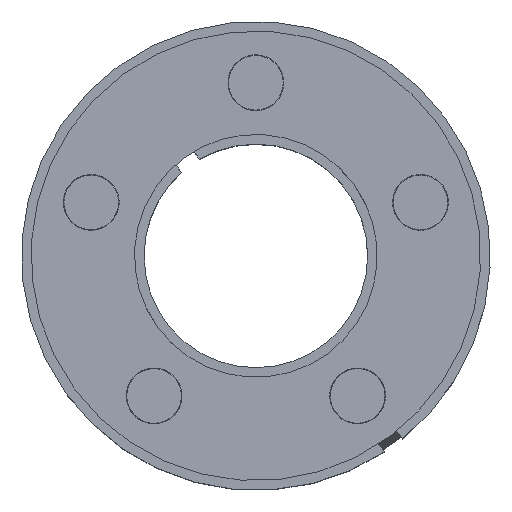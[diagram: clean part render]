
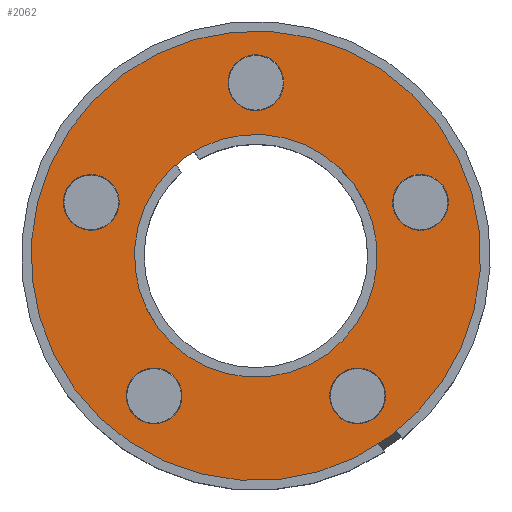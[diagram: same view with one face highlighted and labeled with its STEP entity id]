
A CAD part, top view. The second image highlights one B-rep face of the part: STEP entity #2062.
In plain terms, the highlighted planar face has unit normal (0, 0, 1).
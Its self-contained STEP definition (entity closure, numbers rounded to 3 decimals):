
#66 = ORIENTED_EDGE ( 'NONE', *, *, #2810, .T. ) ;
#68 = DIRECTION ( 'NONE',  ( 0.809, 0.588, 0. ) ) ;
#310 = EDGE_LOOP ( 'NONE', ( #2455, #4362 ) ) ;
#315 = VERTEX_POINT ( 'NONE', #534 ) ;
#339 = CARTESIAN_POINT ( 'NONE',  ( 0., 0., 18.013 ) ) ;
#383 = CARTESIAN_POINT ( 'NONE',  ( -7.088, -11.07, 18.013 ) ) ;
#481 = AXIS2_PLACEMENT_3D ( 'NONE', #2497, #7036, #3156 ) ;
#534 = CARTESIAN_POINT ( 'NONE',  ( -16.764, 3.32, 18.013 ) ) ;
#582 = VERTEX_POINT ( 'NONE', #3438 ) ;
#611 = VERTEX_POINT ( 'NONE', #4735 ) ;
#663 = DIRECTION ( 'NONE',  ( 0., 0., -1. ) ) ;
#723 = DIRECTION ( 'NONE',  ( 0., 0., -1. ) ) ;
#747 = CARTESIAN_POINT ( 'NONE',  ( 2.023, 16.969, 18.013 ) ) ;
#792 = VERTEX_POINT ( 'NONE', #4414 ) ;
#809 = CARTESIAN_POINT ( 'NONE',  ( -8.792, -6.388, 18.013 ) ) ;
#970 = DIRECTION ( 'NONE',  ( 0.809, 0.588, 0. ) ) ;
#989 = VERTEX_POINT ( 'NONE', #747 ) ;
#1007 = VERTEX_POINT ( 'NONE', #809 ) ;
#1264 = FACE_BOUND ( 'NONE', #7603, .T. ) ;
#1299 = AXIS2_PLACEMENT_3D ( 'NONE', #1787, #6332, #2450 ) ;
#1306 = VERTEX_POINT ( 'NONE', #383 ) ;
#1332 = CARTESIAN_POINT ( 'NONE',  ( 12.719, 3.32, 18.013 ) ) ;
#1370 = EDGE_CURVE ( 'NONE', #3776, #315, #2543, .T. ) ;
#1390 = ORIENTED_EDGE ( 'NONE', *, *, #5117, .T. ) ;
#1430 = CARTESIAN_POINT ( 'NONE',  ( 0., 15.5, 18.013 ) ) ;
#1451 = CIRCLE ( 'NONE', #3202, 10.868 ) ;
#1487 = FACE_BOUND ( 'NONE', #310, .T. ) ;
#1491 = CARTESIAN_POINT ( 'NONE',  ( 7.088, -14.009, 18.013 ) ) ;
#1729 = CIRCLE ( 'NONE', #7934, 2.5 ) ;
#1787 = CARTESIAN_POINT ( 'NONE',  ( 14.741, 4.79, 18.013 ) ) ;
#1840 = ORIENTED_EDGE ( 'NONE', *, *, #6140, .T. ) ;
#1860 = AXIS2_PLACEMENT_3D ( 'NONE', #5816, #1914, #6454 ) ;
#1888 = PLANE ( 'NONE',  #1860 ) ;
#1914 = DIRECTION ( 'NONE',  ( 0., 0., -1. ) ) ;
#1973 = CARTESIAN_POINT ( 'NONE',  ( 11.133, -11.07, 18.013 ) ) ;
#1980 = CARTESIAN_POINT ( 'NONE',  ( 8.792, 6.388, 18.013 ) ) ;
#2062 = ADVANCED_FACE ( 'NONE', ( #1264, #6462, #3225, #7977, #1487, #3029, #4754 ), #1888, .F. ) ;
#2098 = DIRECTION ( 'NONE',  ( 0.809, 0.588, 0. ) ) ;
#2128 = VERTEX_POINT ( 'NONE', #1332 ) ;
#2147 = VERTEX_POINT ( 'NONE', #1973 ) ;
#2176 = DIRECTION ( 'NONE',  ( 0., 0., -1. ) ) ;
#2411 = DIRECTION ( 'NONE',  ( 0., 0., -1. ) ) ;
#2440 = DIRECTION ( 'NONE',  ( 0., 0., -1. ) ) ;
#2450 = DIRECTION ( 'NONE',  ( 0.809, 0.588, 0. ) ) ;
#2455 = ORIENTED_EDGE ( 'NONE', *, *, #4988, .T. ) ;
#2497 = CARTESIAN_POINT ( 'NONE',  ( -14.741, 4.79, 18.013 ) ) ;
#2543 = CIRCLE ( 'NONE', #481, 2.5 ) ;
#2556 = AXIS2_PLACEMENT_3D ( 'NONE', #7847, #3980, #68 ) ;
#2602 = CARTESIAN_POINT ( 'NONE',  ( -9.111, -12.54, 18.013 ) ) ;
#2697 = EDGE_CURVE ( 'NONE', #7540, #611, #5635, .T. ) ;
#2806 = DIRECTION ( 'NONE',  ( 0., 0., -1. ) ) ;
#2810 = EDGE_CURVE ( 'NONE', #2128, #792, #7727, .T. ) ;
#2846 = ORIENTED_EDGE ( 'NONE', *, *, #2697, .F. ) ;
#2874 = ORIENTED_EDGE ( 'NONE', *, *, #6887, .T. ) ;
#3029 = FACE_BOUND ( 'NONE', #3869, .T. ) ;
#3153 = DIRECTION ( 'NONE',  ( 0., 0., -1. ) ) ;
#3156 = DIRECTION ( 'NONE',  ( 0.809, 0.588, 0. ) ) ;
#3202 = AXIS2_PLACEMENT_3D ( 'NONE', #6058, #2176, #6721 ) ;
#3225 = FACE_BOUND ( 'NONE', #7321, .T. ) ;
#3262 = DIRECTION ( 'NONE',  ( 0.809, 0.588, 0. ) ) ;
#3284 = AXIS2_PLACEMENT_3D ( 'NONE', #6323, #2440, #6984 ) ;
#3319 = CIRCLE ( 'NONE', #6520, 2.5 ) ;
#3370 = ORIENTED_EDGE ( 'NONE', *, *, #5186, .T. ) ;
#3419 = CIRCLE ( 'NONE', #5257, 2.5 ) ;
#3424 = EDGE_CURVE ( 'NONE', #1306, #4589, #1729, .T. ) ;
#3438 = CARTESIAN_POINT ( 'NONE',  ( -2.023, 14.031, 18.013 ) ) ;
#3705 = ORIENTED_EDGE ( 'NONE', *, *, #8111, .F. ) ;
#3710 = CARTESIAN_POINT ( 'NONE',  ( 16.286, 11.832, 18.013 ) ) ;
#3723 = CIRCLE ( 'NONE', #4009, 2.5 ) ;
#3776 = VERTEX_POINT ( 'NONE', #6781 ) ;
#3791 = DIRECTION ( 'NONE',  ( 0., 0., -1. ) ) ;
#3869 = EDGE_LOOP ( 'NONE', ( #1840, #2874 ) ) ;
#3980 = DIRECTION ( 'NONE',  ( 0., 0., -1. ) ) ;
#4009 = AXIS2_PLACEMENT_3D ( 'NONE', #6298, #2411, #6957 ) ;
#4058 = CIRCLE ( 'NONE', #2556, 2.5 ) ;
#4080 = ORIENTED_EDGE ( 'NONE', *, *, #6725, .T. ) ;
#4302 = AXIS2_PLACEMENT_3D ( 'NONE', #1430, #5978, #2098 ) ;
#4362 = ORIENTED_EDGE ( 'NONE', *, *, #4497, .T. ) ;
#4414 = CARTESIAN_POINT ( 'NONE',  ( 16.764, 6.259, 18.013 ) ) ;
#4497 = EDGE_CURVE ( 'NONE', #5196, #2147, #4790, .T. ) ;
#4587 = CARTESIAN_POINT ( 'NONE',  ( 0., 0., 18.013 ) ) ;
#4589 = VERTEX_POINT ( 'NONE', #7325 ) ;
#4642 = CARTESIAN_POINT ( 'NONE',  ( 9.111, -12.54, 18.013 ) ) ;
#4735 = CARTESIAN_POINT ( 'NONE',  ( -16.286, -11.832, 18.013 ) ) ;
#4754 = FACE_OUTER_BOUND ( 'NONE', #4778, .T. ) ;
#4778 = EDGE_LOOP ( 'NONE', ( #2846, #3705 ) ) ;
#4790 = CIRCLE ( 'NONE', #6664, 2.5 ) ;
#4898 = DIRECTION ( 'NONE',  ( 0., 0., -1. ) ) ;
#4988 = EDGE_CURVE ( 'NONE', #2147, #5196, #4058, .T. ) ;
#5117 = EDGE_CURVE ( 'NONE', #582, #989, #7082, .T. ) ;
#5186 = EDGE_CURVE ( 'NONE', #315, #3776, #7980, .T. ) ;
#5196 = VERTEX_POINT ( 'NONE', #1491 ) ;
#5240 = DIRECTION ( 'NONE',  ( 0.809, 0.588, 0. ) ) ;
#5257 = AXIS2_PLACEMENT_3D ( 'NONE', #2602, #7145, #3262 ) ;
#5292 = DIRECTION ( 'NONE',  ( 0.809, 0.588, 0. ) ) ;
#5403 = EDGE_LOOP ( 'NONE', ( #6720, #1390 ) ) ;
#5470 = AXIS2_PLACEMENT_3D ( 'NONE', #339, #4898, #970 ) ;
#5628 = ORIENTED_EDGE ( 'NONE', *, *, #5798, .T. ) ;
#5635 = CIRCLE ( 'NONE', #7311, 20.13 ) ;
#5657 = ORIENTED_EDGE ( 'NONE', *, *, #3424, .T. ) ;
#5798 = EDGE_CURVE ( 'NONE', #792, #2128, #3319, .T. ) ;
#5816 = CARTESIAN_POINT ( 'NONE',  ( 0., 0., 18.013 ) ) ;
#5978 = DIRECTION ( 'NONE',  ( 0., 0., -1. ) ) ;
#6058 = CARTESIAN_POINT ( 'NONE',  ( 0., 0., 18.013 ) ) ;
#6140 = EDGE_CURVE ( 'NONE', #6410, #1007, #8258, .T. ) ;
#6283 = ORIENTED_EDGE ( 'NONE', *, *, #1370, .T. ) ;
#6290 = EDGE_LOOP ( 'NONE', ( #5657, #4080 ) ) ;
#6298 = CARTESIAN_POINT ( 'NONE',  ( 0., 15.5, 18.013 ) ) ;
#6323 = CARTESIAN_POINT ( 'NONE',  ( 0., 0., 18.013 ) ) ;
#6332 = DIRECTION ( 'NONE',  ( 0., 0., -1. ) ) ;
#6410 = VERTEX_POINT ( 'NONE', #1980 ) ;
#6454 = DIRECTION ( 'NONE',  ( 0.809, 0.588, 0. ) ) ;
#6462 = FACE_BOUND ( 'NONE', #5403, .T. ) ;
#6520 = AXIS2_PLACEMENT_3D ( 'NONE', #7652, #3791, #8311 ) ;
#6664 = AXIS2_PLACEMENT_3D ( 'NONE', #4642, #723, #5292 ) ;
#6695 = CARTESIAN_POINT ( 'NONE',  ( -14.741, 4.79, 18.013 ) ) ;
#6720 = ORIENTED_EDGE ( 'NONE', *, *, #8228, .T. ) ;
#6721 = DIRECTION ( 'NONE',  ( 0.809, 0.588, 0. ) ) ;
#6725 = EDGE_CURVE ( 'NONE', #4589, #1306, #3419, .T. ) ;
#6781 = CARTESIAN_POINT ( 'NONE',  ( -12.719, 6.259, 18.013 ) ) ;
#6887 = EDGE_CURVE ( 'NONE', #1007, #6410, #1451, .T. ) ;
#6957 = DIRECTION ( 'NONE',  ( 0.809, 0.588, 0. ) ) ;
#6984 = DIRECTION ( 'NONE',  ( 0.809, 0.588, 0. ) ) ;
#7034 = CARTESIAN_POINT ( 'NONE',  ( -9.111, -12.54, 18.013 ) ) ;
#7036 = DIRECTION ( 'NONE',  ( 0., 0., -1. ) ) ;
#7068 = CIRCLE ( 'NONE', #5470, 20.13 ) ;
#7082 = CIRCLE ( 'NONE', #4302, 2.5 ) ;
#7145 = DIRECTION ( 'NONE',  ( 0., 0., -1. ) ) ;
#7311 = AXIS2_PLACEMENT_3D ( 'NONE', #4587, #663, #5240 ) ;
#7321 = EDGE_LOOP ( 'NONE', ( #6283, #3370 ) ) ;
#7325 = CARTESIAN_POINT ( 'NONE',  ( -11.133, -14.009, 18.013 ) ) ;
#7335 = AXIS2_PLACEMENT_3D ( 'NONE', #6695, #2806, #7346 ) ;
#7346 = DIRECTION ( 'NONE',  ( 0.809, 0.588, 0. ) ) ;
#7540 = VERTEX_POINT ( 'NONE', #3710 ) ;
#7603 = EDGE_LOOP ( 'NONE', ( #5628, #66 ) ) ;
#7652 = CARTESIAN_POINT ( 'NONE',  ( 14.741, 4.79, 18.013 ) ) ;
#7672 = DIRECTION ( 'NONE',  ( 0.809, 0.588, 0. ) ) ;
#7727 = CIRCLE ( 'NONE', #1299, 2.5 ) ;
#7847 = CARTESIAN_POINT ( 'NONE',  ( 9.111, -12.54, 18.013 ) ) ;
#7934 = AXIS2_PLACEMENT_3D ( 'NONE', #7034, #3153, #7672 ) ;
#7977 = FACE_BOUND ( 'NONE', #6290, .T. ) ;
#7980 = CIRCLE ( 'NONE', #7335, 2.5 ) ;
#8111 = EDGE_CURVE ( 'NONE', #611, #7540, #7068, .T. ) ;
#8228 = EDGE_CURVE ( 'NONE', #989, #582, #3723, .T. ) ;
#8258 = CIRCLE ( 'NONE', #3284, 10.868 ) ;
#8311 = DIRECTION ( 'NONE',  ( 0.809, 0.588, 0. ) ) ;
